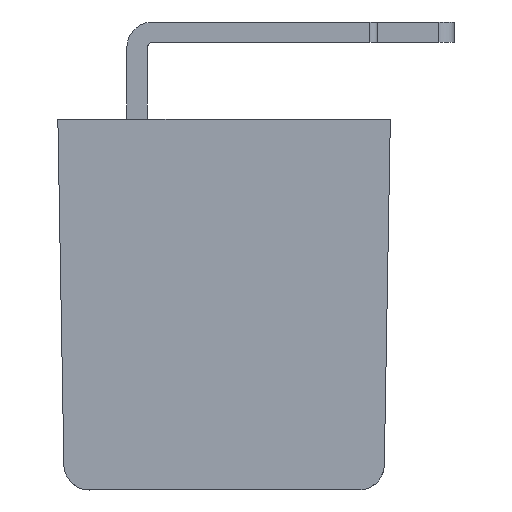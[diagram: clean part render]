
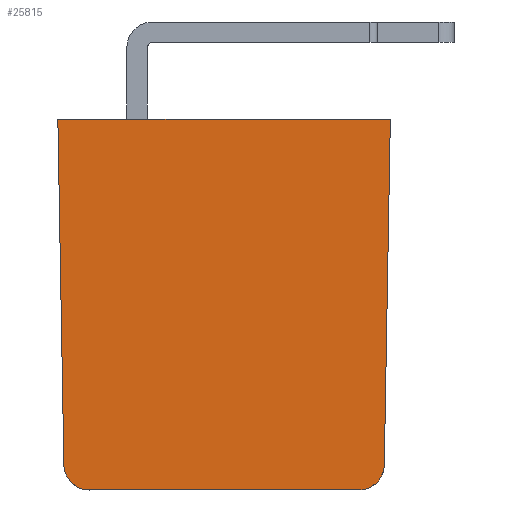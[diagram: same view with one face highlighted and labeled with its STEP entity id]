
A CAD part, left-side view. The second image highlights one B-rep face of the part: STEP entity #25815.
In plain terms, the highlighted planar face has unit normal (-1, 0, 0).
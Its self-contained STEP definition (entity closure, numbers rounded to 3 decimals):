
#8822=CARTESIAN_POINT('',(0.,11.764,-13.501));
#8823=DIRECTION('',(-1.,0.,0.));
#8824=DIRECTION('',(0.,1.,-0.017));
#8825=AXIS2_PLACEMENT_3D('',#8822,#8823,#8824);
#8827=DIRECTION('',(0.,-0.017,-1.));
#8828=VECTOR('',#8827,13.52);
#8829=CARTESIAN_POINT('',(0.,13.,-0.001));
#8830=LINE('',#8829,#8828);
#8831=DIRECTION('',(0.,1.,0.));
#8832=VECTOR('',#8831,13.);
#8833=CARTESIAN_POINT('',(0.,0.,-0.001));
#8834=LINE('',#8833,#8832);
#8835=DIRECTION('',(0.,-0.017,1.));
#8836=VECTOR('',#8835,13.52);
#8837=CARTESIAN_POINT('',(0.,0.236,-13.519));
#8838=LINE('',#8837,#8836);
#8839=CARTESIAN_POINT('',(0.,1.236,-13.501));
#8840=DIRECTION('',(-1.,0.,0.));
#8841=DIRECTION('',(0.,0.,-1.));
#8842=AXIS2_PLACEMENT_3D('',#8839,#8840,#8841);
#8844=DIRECTION('',(0.,-1.,0.));
#8845=VECTOR('',#8844,10.528);
#8846=CARTESIAN_POINT('',(0.,11.764,-14.501));
#8847=LINE('',#8846,#8845);
#12346=CARTESIAN_POINT('',(0.,13.,-0.001));
#12347=VERTEX_POINT('',#12346);
#12348=CARTESIAN_POINT('',(0.,12.764,-13.519));
#12349=VERTEX_POINT('',#12348);
#12351=CARTESIAN_POINT('',(0.,0.,-0.001));
#12353=VERTEX_POINT('',#12351);
#12355=CARTESIAN_POINT('',(0.,0.236,-13.519));
#12357=VERTEX_POINT('',#12355);
#12358=CARTESIAN_POINT('',(0.,1.236,-14.501));
#12360=VERTEX_POINT('',#12358);
#12363=CARTESIAN_POINT('',(0.,11.764,-14.501));
#12365=VERTEX_POINT('',#12363);
#25798=CARTESIAN_POINT('',(0.,6.5,-0.001));
#25799=DIRECTION('',(-1.,0.,0.));
#25800=DIRECTION('',(0.,1.,0.));
#25801=AXIS2_PLACEMENT_3D('',#25798,#25799,#25800);
#25802=PLANE('',#25801);
#25804=ORIENTED_EDGE('',*,*,#25803,.F.);
#25805=ORIENTED_EDGE('',*,*,#25791,.F.);
#25806=ORIENTED_EDGE('',*,*,#25705,.F.);
#25808=ORIENTED_EDGE('',*,*,#25807,.F.);
#25810=ORIENTED_EDGE('',*,*,#25809,.F.);
#25812=ORIENTED_EDGE('',*,*,#25811,.F.);
#25813=EDGE_LOOP('',(#25804,#25805,#25806,#25808,#25810,#25812));
#25814=FACE_OUTER_BOUND('',#25813,.F.);
#25815=ADVANCED_FACE('',(#25814),#25802,.T.);
#8826=CIRCLE('',#8825,1.);
#8843=CIRCLE('',#8842,1.);
#25705=EDGE_CURVE('',#12353,#12347,#8834,.T.);
#25791=EDGE_CURVE('',#12347,#12349,#8830,.T.);
#25803=EDGE_CURVE('',#12349,#12365,#8826,.T.);
#25807=EDGE_CURVE('',#12357,#12353,#8838,.T.);
#25809=EDGE_CURVE('',#12360,#12357,#8843,.T.);
#25811=EDGE_CURVE('',#12365,#12360,#8847,.T.);
